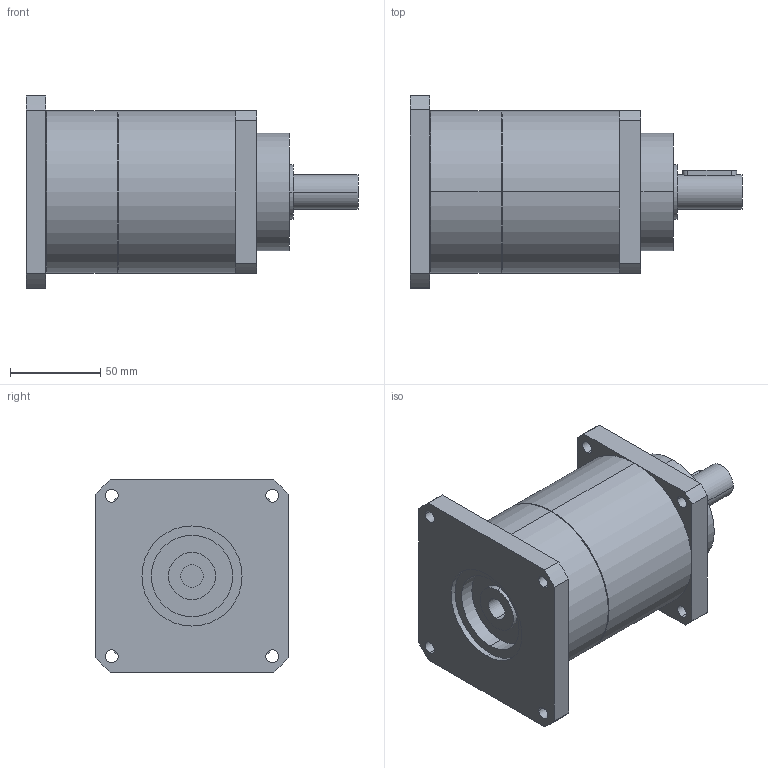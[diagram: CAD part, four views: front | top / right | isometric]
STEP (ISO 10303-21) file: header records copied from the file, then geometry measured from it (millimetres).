
FILE_DESCRIPTION(('CoCreate Modeling STEP Export'),'2;1');
FILE_NAME('GPT90_ig-9-12-16-20-25-28-35-40-50-70-100_19_B5T_12.7_P02.stp','2015-02-04T11:27:23',(''),(''),'CoCreate Modeling STEP processor for AP214 (Solid Model)','CoCreate Modeling 16.00C 25-Feb-2009 (C) Parametric Technology GmbH','');
FILE_SCHEMA(('AUTOMOTIVE_DESIGN { 1 0 10303 214 1 1 1 1 }'));
Length unit declared in the file: millimetre
Products named in the file (2): GPT90_ig-9-12-16-20-25-28-35-40-50-70-100_19_B5T_12.7_P02
Assembly tree (1 placements, depth 2):
  GPT90_ig-9-12-16-20-25-28-35-40-50-70-100_19_B5T_12.7_P02
    GPT90_ig-9-12-16-20-25-28-35-40-50-70-100_19_B5T_12.7_P02
Bounding box: 184 x 106.5 x 106.5 mm (x, y, z)
Volume: 932940.9 mm3; surface area: 75771.4 mm2
Topology: 1 solids, 1 shells, 77 faces, 206 edges, 141 vertices
Faces by surface type: cylinder 46, plane 27, cone 4
Entity records: 2596 total; most frequent: CARTESIAN_POINT 742, ORIENTED_EDGE 412, DIRECTION 324, EDGE_CURVE 206, VERTEX_POINT 141, AXIS2_PLACEMENT_3D 120, EDGE_LOOP 103, VECTOR 84
